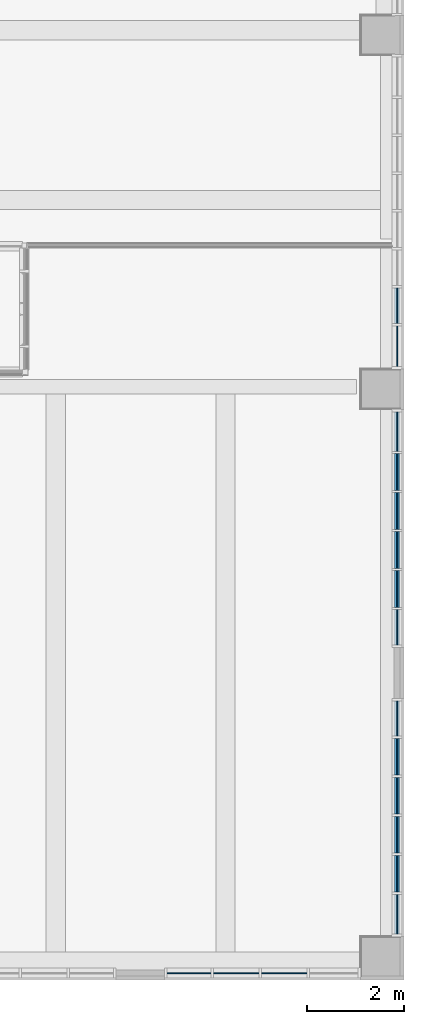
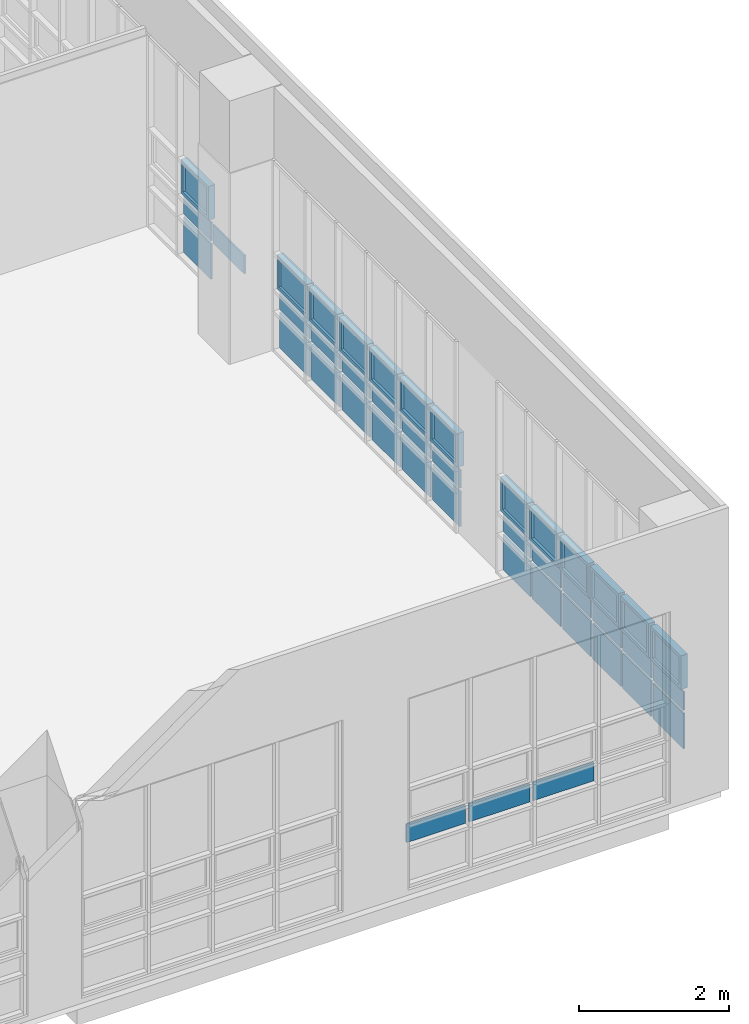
# One storey, part 43 of 74: 43 plates, 4 elements without a shape of their own.
"""IFC2X3 building model written with IfcOpenShell, lengths in millimetres."""

from ifc_helpers import new_model, entity, si_unit, converted_unit, derived_unit, direction, frame, origin, origin_2d_with_axis, place, context, subcontext, project, spatial, polyline, rectangle, outline, extrude, source, transform, mapped, material, material_list, type_object, type_shapes, element, aggregate, save


model = new_model("IFC2X3")

# Units and contexts
model_context = context("Model", 3, precision=0.01, world=origin(), true_north=direction((6.123031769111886e-17, 1.0)))
body_context = subcontext(model_context, "Body", "Model", "MODEL_VIEW")
ifc_project = project(units=[si_unit("LENGTHUNIT", "METRE", prefix="MILLI"), si_unit("AREAUNIT", "SQUARE_METRE"), si_unit("VOLUMEUNIT", "CUBIC_METRE"), converted_unit("PLANEANGLEUNIT", "DEGREE", entity("IfcRatioMeasure", 0.017453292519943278), si_unit("PLANEANGLEUNIT", "RADIAN"), dimensions=[0, 0, 0, 0, 0, 0, 0]), si_unit("MASSUNIT", "GRAM", prefix="KILO"), derived_unit("MASSDENSITYUNIT", [(si_unit("MASSUNIT", "GRAM", prefix="KILO"), 1), (si_unit("LENGTHUNIT", "METRE"), -3)]), derived_unit("MOMENTOFINERTIAUNIT", [(si_unit("LENGTHUNIT", "METRE"), 4)]), si_unit("TIMEUNIT", "SECOND"), si_unit("FREQUENCYUNIT", "HERTZ"), si_unit("THERMODYNAMICTEMPERATUREUNIT", "DEGREE_CELSIUS"), derived_unit("THERMALTRANSMITTANCEUNIT", [(si_unit("MASSUNIT", "GRAM", prefix="KILO"), 1), (si_unit("THERMODYNAMICTEMPERATUREUNIT", "KELVIN"), -1), (si_unit("TIMEUNIT", "SECOND"), -3)]), derived_unit("VOLUMETRICFLOWRATEUNIT", [(si_unit("LENGTHUNIT", "METRE"), 3), (si_unit("TIMEUNIT", "SECOND"), -1)]), derived_unit("MASSFLOWRATEUNIT", [(si_unit("MASSUNIT", "GRAM", prefix="KILO"), 1), (si_unit("TIMEUNIT", "SECOND"), -1)]), derived_unit("ROTATIONALFREQUENCYUNIT", [(si_unit("TIMEUNIT", "SECOND"), -1)]), si_unit("ELECTRICCURRENTUNIT", "AMPERE"), si_unit("ELECTRICVOLTAGEUNIT", "VOLT"), si_unit("POWERUNIT", "WATT"), si_unit("FORCEUNIT", "NEWTON", prefix="KILO"), si_unit("ILLUMINANCEUNIT", "LUX"), si_unit("LUMINOUSFLUXUNIT", "LUMEN"), si_unit("LUMINOUSINTENSITYUNIT", "CANDELA"), derived_unit("USERDEFINED", [(si_unit("MASSUNIT", "GRAM", prefix="KILO"), -1), (si_unit("LENGTHUNIT", "METRE"), -2), (si_unit("TIMEUNIT", "SECOND"), 3), (si_unit("LUMINOUSFLUXUNIT", "LUMEN"), 1)]), derived_unit("SOUNDPOWERUNIT", [(si_unit("MASSUNIT", "GRAM", prefix="KILO"), 1), (si_unit("LENGTHUNIT", "METRE"), 2), (si_unit("TIMEUNIT", "SECOND"), -3)]), derived_unit("SOUNDPRESSUREUNIT", [(si_unit("MASSUNIT", "GRAM", prefix="KILO"), 1), (si_unit("LENGTHUNIT", "METRE"), -1), (si_unit("TIMEUNIT", "SECOND"), -2)]), derived_unit("LINEARVELOCITYUNIT", [(si_unit("LENGTHUNIT", "METRE"), 1), (si_unit("TIMEUNIT", "SECOND"), -1)]), si_unit("PRESSUREUNIT", "PASCAL"), derived_unit("USERDEFINED", [(si_unit("LENGTHUNIT", "METRE"), -2), (si_unit("MASSUNIT", "GRAM", prefix="KILO"), 1), (si_unit("TIMEUNIT", "SECOND"), -2)]), derived_unit("LINEARFORCEUNIT", [(si_unit("MASSUNIT", "GRAM", prefix="KILO"), 1), (si_unit("LENGTHUNIT", "METRE"), 1), (si_unit("TIMEUNIT", "SECOND"), -2), (si_unit("LENGTHUNIT", "METRE"), -1)]), derived_unit("PLANARFORCEUNIT", [(si_unit("MASSUNIT", "GRAM", prefix="KILO"), 1), (si_unit("LENGTHUNIT", "METRE"), 1), (si_unit("TIMEUNIT", "SECOND"), -2), (si_unit("LENGTHUNIT", "METRE"), -2)])], contexts=[model_context])

# Site, building, storey
site_placement = place(None, frame((-14167.972527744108, -657.2125860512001, 0.0)))
site = spatial("IfcSite", under=ifc_project, at=site_placement, Name="Default", CompositionType="ELEMENT")
building_placement = place(site_placement, origin())
building = spatial("IfcBuilding", under=site, at=building_placement, Name="Sample Building", CompositionType="ELEMENT")
storey_placement = place(building_placement, frame((0.0, 0.0, 4800.0)))
storey = spatial("IfcBuildingStorey", under=building, at=storey_placement, Name="지상 2층", CompositionType="ELEMENT", Elevation=4800.000000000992)

# Curtain wall, plates
curtain_wall_type = type_object("IfcCurtainWallType", Name="커튼월:CW112-스테인리스 스틸 커튼월", PredefinedType="NOTDEFINED")
curtain_wall_1_placement = place(storey_placement, frame((0.0, 0.0, -4800.0)))
curtain_wall_1 = element("IfcCurtainWall", 1, at=curtain_wall_1_placement, inside=storey, type_object=curtain_wall_type, Name="커튼월:CW112-스테인리스 스틸 커튼월", ObjectType="커튼월:CW112-스테인리스 스틸 커튼월")
ifc_material_1 = material(Name="KBIMS-로이유리(코팅)")
plate_type_1 = type_object("IfcPlateType", Name="CW300-THK24.Low-e coating glass:CW300-THK24.Low-e coating glass", PredefinedType="CURTAIN_PANEL", material=ifc_material_1)
shared_shape_1 = source(origin(), body_context, "Body", "SweptSolid", [
    extrude(rectangle(XDim=731.2499999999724, YDim=24.000000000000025, at=origin_2d_with_axis()), frame((0.0, 0.0, 0.0), z_axis=(0.0, 0.0, 1.0), x_axis=(-1.0, 0.0, 0.0)), (0.0, 0.0, 1.0), 575.0000000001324),
])
type_shapes(plate_type_1, [shared_shape_1])
plate_1_placement = place(curtain_wall_1_placement, frame((51405.46382893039, 14379.087275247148, 4930.0), z_axis=(0.0, 0.0, 1.0), x_axis=(0.0, 1.0, 0.0)))
plate_1 = element("IfcPlate", 2, at=plate_1_placement, type_object=plate_type_1, material=ifc_material_1, Name="CW300-THK24.Low-e coating glass:CW300-THK24.Low-e coating glass", ObjectType="CW300-THK24.Low-e coating glass:CW300-THK24.Low-e coating glass", context=body_context, shape_type="MappedRepresentation", body=[
    mapped(shared_shape_1, transform((0.0, 0.0, 0.0), scale=1.0)),
])
plate_type_2 = type_object("IfcPlateType", Name="CW300-THK24.Low-e coating glass:CW300-THK24.Low-e coating glass", PredefinedType="CURTAIN_PANEL", material=ifc_material_1)
shared_shape_2 = source(origin(), body_context, "Body", "SweptSolid", [
    extrude(rectangle(XDim=731.2499999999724, YDim=24.000000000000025, at=origin_2d_with_axis()), frame((0.0, 0.0, 0.0), z_axis=(0.0, 0.0, 1.0), x_axis=(-1.0, 0.0, 0.0)), (0.0, 0.0, 1.0), 300.0),
])
type_shapes(plate_type_2, [shared_shape_2])
plate_2_placement = place(curtain_wall_1_placement, frame((51405.46382893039, 14379.087275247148, 5555.0), z_axis=(0.0, 0.0, 1.0), x_axis=(0.0, 1.0, 0.0)))
plate_2 = element("IfcPlate", 3, at=plate_2_placement, type_object=plate_type_2, material=ifc_material_1, Name="CW300-THK24.Low-e coating glass:CW300-THK24.Low-e coating glass", ObjectType="CW300-THK24.Low-e coating glass:CW300-THK24.Low-e coating glass", context=body_context, shape_type="MappedRepresentation", body=[
    mapped(shared_shape_2, transform((0.0, 0.0, 0.0), scale=1.0)),
])
ifc_material_2 = material(Name="KBIMS-유리")
ifc_material_3 = material(Name="KBIMS-알루미늄")
ifc_material_list_1 = material_list([ifc_material_2, ifc_material_3])
ifc_material_list_2 = material_list([ifc_material_2, ifc_material_3])
plate_type_3 = type_object("IfcPlateType", Name="CW410-프로젝트 창:CW410-프로젝트 창 (하부개폐)", PredefinedType="CURTAIN_PANEL", material=ifc_material_list_2)
shared_shape_3 = source(origin(), body_context, "Body", "SweptSolid", [
    extrude(rectangle(XDim=631.250000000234, YDim=23.999999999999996, at=origin_2d_with_axis()), frame((0.0, -0.04999999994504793, 50.0), z_axis=(0.0, 0.0, 1.0), x_axis=(-1.0, 0.0, 0.0)), (0.0, 0.0, 1.0), 450.0000000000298),
    extrude(outline(polyline([(-365.6249999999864, -275.0), (365.6249999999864, -275.0), (365.6249999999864, 275.0), (-365.6249999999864, 275.0), (-365.6249999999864, -275.0)]), holes=[polyline([(-315.62499999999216, -225.0), (-315.6249999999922, 225.0), (315.6250000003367, 225.0), (315.62500000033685, -225.0), (-315.62499999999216, -225.0)])]), frame((0.0, -50.04999999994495, 275.0), z_axis=(0.0, 1.0, 0.0), x_axis=(1.0, 0.0, 0.0)), (0.0, 0.0, 1.0), 99.99999999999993),
])
type_shapes(plate_type_3, [shared_shape_3])
plate_3_placement = place(curtain_wall_1_placement, frame((51405.46382893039, 14379.087275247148, 5905.0), z_axis=(0.0, 0.0, 1.0), x_axis=(0.0, 1.0, 0.0)))
plate_3 = element("IfcPlate", 4, at=plate_3_placement, type_object=plate_type_3, material=ifc_material_list_1, Name="CW410-프로젝트 창:CW410-프로젝트 창 (하부개폐)", ObjectType="CW410-프로젝트 창:CW410-프로젝트 창 (하부개폐)", context=body_context, shape_type="MappedRepresentation", body=[
    mapped(shared_shape_3, transform((0.0, 0.0, 0.0), scale=1.0)),
])

curtain_wall_2_placement = place(storey_placement, frame((0.0, 0.0, -4800.0)))
curtain_wall_2 = element("IfcCurtainWall", 5, at=curtain_wall_2_placement, inside=storey, type_object=curtain_wall_type, Name="커튼월:CW112-스테인리스 스틸 커튼월", ObjectType="커튼월:CW112-스테인리스 스틸 커튼월")
plate_type_4 = type_object("IfcPlateType", Name="CW300-THK24.Low-e coating glass:CW300-THK24.Low-e coating glass", PredefinedType="CURTAIN_PANEL", material=ifc_material_1)
shared_shape_4 = source(origin(), body_context, "Body", "SweptSolid", [
    extrude(rectangle(XDim=937.4999999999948, YDim=24.000000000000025, at=origin_2d_with_axis()), frame((0.0, 0.0, 0.0), z_axis=(0.0, 0.0, 1.0), x_axis=(-1.0, 0.0, 0.0)), (0.0, 0.0, 1.0), 299.99999999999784),
])
type_shapes(plate_type_4, [shared_shape_4])
plate_4_placement = place(curtain_wall_2_placement, frame((48092.07230636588, 619.7122951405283, 5555.0)))
plate_4 = element("IfcPlate", 6, at=plate_4_placement, type_object=plate_type_4, material=ifc_material_1, Name="CW300-THK24.Low-e coating glass:CW300-THK24.Low-e coating glass", ObjectType="CW300-THK24.Low-e coating glass:CW300-THK24.Low-e coating glass", context=body_context, shape_type="MappedRepresentation", body=[
    mapped(shared_shape_4, transform((0.0, 0.0, 0.0), scale=1.0)),
])
plate_5_placement = place(curtain_wall_2_placement, frame((49079.57230636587, 619.7122951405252, 5555.0)))
plate_5 = element("IfcPlate", 7, at=plate_5_placement, type_object=plate_type_4, material=ifc_material_1, Name="CW300-THK24.Low-e coating glass:CW300-THK24.Low-e coating glass", ObjectType="CW300-THK24.Low-e coating glass:CW300-THK24.Low-e coating glass", context=body_context, shape_type="MappedRepresentation", body=[
    mapped(shared_shape_4, transform((0.0, 0.0, 0.0), scale=1.0)),
])
plate_type_5 = type_object("IfcPlateType", Name="CW300-THK24.Low-e coating glass:CW300-THK24.Low-e coating glass", PredefinedType="CURTAIN_PANEL", material=ifc_material_1)
shared_shape_5 = source(origin(), body_context, "Body", "SweptSolid", [
    extrude(rectangle(XDim=912.5000000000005, YDim=24.000000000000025, at=origin_2d_with_axis()), frame((0.0, 0.0, 0.0), z_axis=(0.0, 0.0, 1.0), x_axis=(-1.0, 0.0, 0.0)), (0.0, 0.0, 1.0), 299.99999999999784),
])
type_shapes(plate_type_5, [shared_shape_5])
plate_6_placement = place(curtain_wall_2_placement, frame((47117.07230636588, 619.7122951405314, 5555.0)))
plate_6 = element("IfcPlate", 8, at=plate_6_placement, type_object=plate_type_5, material=ifc_material_1, Name="CW300-THK24.Low-e coating glass:CW300-THK24.Low-e coating glass", ObjectType="CW300-THK24.Low-e coating glass:CW300-THK24.Low-e coating glass", context=body_context, shape_type="MappedRepresentation", body=[
    mapped(shared_shape_5, transform((0.0, 0.0, 0.0), scale=1.0)),
])
aggregate(curtain_wall_2, [plate_6, plate_4, plate_5])

curtain_wall_3_placement = place(storey_placement, frame((0.0, 0.0, -4800.0)))
curtain_wall_3 = element("IfcCurtainWall", 9, at=curtain_wall_3_placement, inside=storey, type_object=curtain_wall_type, Name="커튼월:CW112-스테인리스 스틸 커튼월", ObjectType="커튼월:CW112-스테인리스 스틸 커튼월")
plate_type_6 = type_object("IfcPlateType", Name="CW300-THK24.Low-e coating glass:CW300-THK24.Low-e coating glass", PredefinedType="CURTAIN_PANEL", material=ifc_material_1)
shared_shape_6 = source(origin(), body_context, "Body", "SweptSolid", [
    extrude(rectangle(XDim=811.1669447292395, YDim=24.000000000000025, at=origin_2d_with_axis()), frame((0.0, 0.0, 0.0), z_axis=(0.0, 0.0, 1.0), x_axis=(-1.0, 0.0, 0.0)), (0.0, 0.0, 1.0), 575.0000000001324),
])
type_shapes(plate_type_6, [shared_shape_6])
plate_7_placement = place(curtain_wall_3_placement, frame((51405.46382893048, 1830.7957803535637, 4930.0), z_axis=(0.0, 0.0, 1.0), x_axis=(0.0, 1.0, 0.0)))
plate_7 = element("IfcPlate", 10, at=plate_7_placement, type_object=plate_type_6, material=ifc_material_1, Name="CW300-THK24.Low-e coating glass:CW300-THK24.Low-e coating glass", ObjectType="CW300-THK24.Low-e coating glass:CW300-THK24.Low-e coating glass", context=body_context, shape_type="MappedRepresentation", body=[
    mapped(shared_shape_6, transform((0.0, 0.0, 0.0), scale=1.0)),
])
plate_type_7 = type_object("IfcPlateType", Name="CW300-THK24.Low-e coating glass:CW300-THK24.Low-e coating glass", PredefinedType="CURTAIN_PANEL", material=ifc_material_1)
shared_shape_7 = source(origin(), body_context, "Body", "SweptSolid", [
    extrude(rectangle(XDim=754.1666666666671, YDim=24.000000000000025, at=origin_2d_with_axis()), frame((0.0, 0.0, 0.0), z_axis=(0.0, 0.0, 1.0), x_axis=(-1.0, 0.0, 0.0)), (0.0, 0.0, 1.0), 575.0000000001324),
])
type_shapes(plate_type_7, [shared_shape_7])
plate_8_placement = place(curtain_wall_3_placement, frame((51405.46382893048, 2663.462586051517, 4930.0), z_axis=(0.0, 0.0, 1.0), x_axis=(0.0, 1.0, 0.0)))
plate_8 = element("IfcPlate", 11, at=plate_8_placement, type_object=plate_type_7, material=ifc_material_1, Name="CW300-THK24.Low-e coating glass:CW300-THK24.Low-e coating glass", ObjectType="CW300-THK24.Low-e coating glass:CW300-THK24.Low-e coating glass", context=body_context, shape_type="MappedRepresentation", body=[
    mapped(shared_shape_7, transform((0.0, 0.0, 0.0), scale=1.0)),
])
plate_9_placement = place(curtain_wall_3_placement, frame((51405.46382893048, 3467.629252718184, 4930.0), z_axis=(0.0, 0.0, 1.0), x_axis=(0.0, 1.0, 0.0)))
plate_9 = element("IfcPlate", 12, at=plate_9_placement, type_object=plate_type_7, material=ifc_material_1, Name="CW300-THK24.Low-e coating glass:CW300-THK24.Low-e coating glass", ObjectType="CW300-THK24.Low-e coating glass:CW300-THK24.Low-e coating glass", context=body_context, shape_type="MappedRepresentation", body=[
    mapped(shared_shape_7, transform((0.0, 0.0, 0.0), scale=1.0)),
])
plate_10_placement = place(curtain_wall_3_placement, frame((51405.463828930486, 4271.795919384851, 4930.0), z_axis=(0.0, 0.0, 1.0), x_axis=(0.0, 1.0, 0.0)))
plate_10 = element("IfcPlate", 13, at=plate_10_placement, type_object=plate_type_7, material=ifc_material_1, Name="CW300-THK24.Low-e coating glass:CW300-THK24.Low-e coating glass", ObjectType="CW300-THK24.Low-e coating glass:CW300-THK24.Low-e coating glass", context=body_context, shape_type="MappedRepresentation", body=[
    mapped(shared_shape_7, transform((0.0, 0.0, 0.0), scale=1.0)),
])
plate_11_placement = place(curtain_wall_3_placement, frame((51405.463828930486, 5075.962586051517, 4930.0), z_axis=(0.0, 0.0, 1.0), x_axis=(0.0, 1.0, 0.0)))
plate_11 = element("IfcPlate", 14, at=plate_11_placement, type_object=plate_type_7, material=ifc_material_1, Name="CW300-THK24.Low-e coating glass:CW300-THK24.Low-e coating glass", ObjectType="CW300-THK24.Low-e coating glass:CW300-THK24.Low-e coating glass", context=body_context, shape_type="MappedRepresentation", body=[
    mapped(shared_shape_7, transform((0.0, 0.0, 0.0), scale=1.0)),
])

curtain_wall_4_placement = place(storey_placement, frame((0.0, 0.0, -4800.0)))
curtain_wall_4 = element("IfcCurtainWall", 15, at=curtain_wall_4_placement, inside=storey, type_object=curtain_wall_type, Name="커튼월:CW112-스테인리스 스틸 커튼월", ObjectType="커튼월:CW112-스테인리스 스틸 커튼월")
plate_12_placement = place(curtain_wall_4_placement, frame((51405.46382893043, 8538.462586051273, 4930.0), z_axis=(0.0, 0.0, 1.0), x_axis=(0.0, 1.0, 0.0)))
plate_12 = element("IfcPlate", 16, at=plate_12_placement, type_object=plate_type_7, material=ifc_material_1, Name="CW300-THK24.Low-e coating glass:CW300-THK24.Low-e coating glass", ObjectType="CW300-THK24.Low-e coating glass:CW300-THK24.Low-e coating glass", context=body_context, shape_type="MappedRepresentation", body=[
    mapped(shared_shape_7, transform((0.0, 0.0, 0.0), scale=1.0)),
])
plate_13_placement = place(curtain_wall_4_placement, frame((51405.46382893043, 9342.62925271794, 4930.0), z_axis=(0.0, 0.0, 1.0), x_axis=(0.0, 1.0, 0.0)))
plate_13 = element("IfcPlate", 17, at=plate_13_placement, type_object=plate_type_7, material=ifc_material_1, Name="CW300-THK24.Low-e coating glass:CW300-THK24.Low-e coating glass", ObjectType="CW300-THK24.Low-e coating glass:CW300-THK24.Low-e coating glass", context=body_context, shape_type="MappedRepresentation", body=[
    mapped(shared_shape_7, transform((0.0, 0.0, 0.0), scale=1.0)),
])
plate_14_placement = place(curtain_wall_4_placement, frame((51405.463828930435, 10146.795919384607, 4930.0), z_axis=(0.0, 0.0, 1.0), x_axis=(0.0, 1.0, 0.0)))
plate_14 = element("IfcPlate", 18, at=plate_14_placement, type_object=plate_type_7, material=ifc_material_1, Name="CW300-THK24.Low-e coating glass:CW300-THK24.Low-e coating glass", ObjectType="CW300-THK24.Low-e coating glass:CW300-THK24.Low-e coating glass", context=body_context, shape_type="MappedRepresentation", body=[
    mapped(shared_shape_7, transform((0.0, 0.0, 0.0), scale=1.0)),
])
plate_15_placement = place(curtain_wall_4_placement, frame((51405.463828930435, 10950.962586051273, 4930.0), z_axis=(0.0, 0.0, 1.0), x_axis=(0.0, 1.0, 0.0)))
plate_15 = element("IfcPlate", 19, at=plate_15_placement, type_object=plate_type_7, material=ifc_material_1, Name="CW300-THK24.Low-e coating glass:CW300-THK24.Low-e coating glass", ObjectType="CW300-THK24.Low-e coating glass:CW300-THK24.Low-e coating glass", context=body_context, shape_type="MappedRepresentation", body=[
    mapped(shared_shape_7, transform((0.0, 0.0, 0.0), scale=1.0)),
])

# Plate
plate_type_8 = type_object("IfcPlateType", Name="CW300-THK24.Low-e coating glass:CW300-THK24.Low-e coating glass", PredefinedType="CURTAIN_PANEL", material=ifc_material_1)
shared_shape_8 = source(origin(), body_context, "Body", "SweptSolid", [
    extrude(rectangle(XDim=729.1666666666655, YDim=24.000000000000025, at=origin_2d_with_axis()), frame((0.0, 0.0, 0.0), z_axis=(0.0, 0.0, 1.0), x_axis=(-1.0, 0.0, 0.0)), (0.0, 0.0, 1.0), 575.0000000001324),
])
type_shapes(plate_type_8, [shared_shape_8])
plate_16_placement = place(curtain_wall_3_placement, frame((51405.463828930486, 5867.629252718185, 4930.0), z_axis=(0.0, 0.0, 1.0), x_axis=(0.0, 1.0, 0.0)))
plate_16 = element("IfcPlate", 20, at=plate_16_placement, type_object=plate_type_8, material=ifc_material_1, Name="CW300-THK24.Low-e coating glass:CW300-THK24.Low-e coating glass", ObjectType="CW300-THK24.Low-e coating glass:CW300-THK24.Low-e coating glass", context=body_context, shape_type="MappedRepresentation", body=[
    mapped(shared_shape_8, transform((0.0, 0.0, 0.0), scale=1.0)),
])

plate_17_placement = place(curtain_wall_4_placement, frame((51405.46382893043, 7746.795919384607, 4930.0), z_axis=(0.0, 0.0, 1.0), x_axis=(0.0, 1.0, 0.0)))
plate_17 = element("IfcPlate", 21, at=plate_17_placement, type_object=plate_type_8, material=ifc_material_1, Name="CW300-THK24.Low-e coating glass:CW300-THK24.Low-e coating glass", ObjectType="CW300-THK24.Low-e coating glass:CW300-THK24.Low-e coating glass", context=body_context, shape_type="MappedRepresentation", body=[
    mapped(shared_shape_8, transform((0.0, 0.0, 0.0), scale=1.0)),
])

plate_type_9 = type_object("IfcPlateType", Name="CW300-THK24.Low-e coating glass:CW300-THK24.Low-e coating glass", PredefinedType="CURTAIN_PANEL", material=ifc_material_1)
shared_shape_9 = source(origin(), body_context, "Body", "SweptSolid", [
    extrude(rectangle(XDim=811.1669447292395, YDim=24.000000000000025, at=origin_2d_with_axis()), frame((0.0, 0.0, 0.0), z_axis=(0.0, 0.0, 1.0), x_axis=(-1.0, 0.0, 0.0)), (0.0, 0.0, 1.0), 299.9999999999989),
])
type_shapes(plate_type_9, [shared_shape_9])
plate_18_placement = place(curtain_wall_3_placement, frame((51405.46382893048, 1830.7957803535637, 5555.0), z_axis=(0.0, 0.0, 1.0), x_axis=(0.0, 1.0, 0.0)))
plate_18 = element("IfcPlate", 22, at=plate_18_placement, type_object=plate_type_9, material=ifc_material_1, Name="CW300-THK24.Low-e coating glass:CW300-THK24.Low-e coating glass", ObjectType="CW300-THK24.Low-e coating glass:CW300-THK24.Low-e coating glass", context=body_context, shape_type="MappedRepresentation", body=[
    mapped(shared_shape_9, transform((0.0, 0.0, 0.0), scale=1.0)),
])

plate_type_10 = type_object("IfcPlateType", Name="CW300-THK24.Low-e coating glass:CW300-THK24.Low-e coating glass", PredefinedType="CURTAIN_PANEL", material=ifc_material_1)
shared_shape_10 = source(origin(), body_context, "Body", "SweptSolid", [
    extrude(rectangle(XDim=754.1666666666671, YDim=24.000000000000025, at=origin_2d_with_axis()), frame((0.0, 0.0, 0.0), z_axis=(0.0, 0.0, 1.0), x_axis=(-1.0, 0.0, 0.0)), (0.0, 0.0, 1.0), 299.9999999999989),
])
type_shapes(plate_type_10, [shared_shape_10])
plate_19_placement = place(curtain_wall_3_placement, frame((51405.46382893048, 2663.462586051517, 5555.0), z_axis=(0.0, 0.0, 1.0), x_axis=(0.0, 1.0, 0.0)))
plate_19 = element("IfcPlate", 23, at=plate_19_placement, type_object=plate_type_10, material=ifc_material_1, Name="CW300-THK24.Low-e coating glass:CW300-THK24.Low-e coating glass", ObjectType="CW300-THK24.Low-e coating glass:CW300-THK24.Low-e coating glass", context=body_context, shape_type="MappedRepresentation", body=[
    mapped(shared_shape_10, transform((0.0, 0.0, 0.0), scale=1.0)),
])

plate_20_placement = place(curtain_wall_3_placement, frame((51405.46382893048, 3467.629252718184, 5555.0), z_axis=(0.0, 0.0, 1.0), x_axis=(0.0, 1.0, 0.0)))
plate_20 = element("IfcPlate", 24, at=plate_20_placement, type_object=plate_type_10, material=ifc_material_1, Name="CW300-THK24.Low-e coating glass:CW300-THK24.Low-e coating glass", ObjectType="CW300-THK24.Low-e coating glass:CW300-THK24.Low-e coating glass", context=body_context, shape_type="MappedRepresentation", body=[
    mapped(shared_shape_10, transform((0.0, 0.0, 0.0), scale=1.0)),
])

plate_21_placement = place(curtain_wall_3_placement, frame((51405.463828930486, 4271.795919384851, 5555.0), z_axis=(0.0, 0.0, 1.0), x_axis=(0.0, 1.0, 0.0)))
plate_21 = element("IfcPlate", 25, at=plate_21_placement, type_object=plate_type_10, material=ifc_material_1, Name="CW300-THK24.Low-e coating glass:CW300-THK24.Low-e coating glass", ObjectType="CW300-THK24.Low-e coating glass:CW300-THK24.Low-e coating glass", context=body_context, shape_type="MappedRepresentation", body=[
    mapped(shared_shape_10, transform((0.0, 0.0, 0.0), scale=1.0)),
])

plate_22_placement = place(curtain_wall_3_placement, frame((51405.463828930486, 5075.962586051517, 5555.0), z_axis=(0.0, 0.0, 1.0), x_axis=(0.0, 1.0, 0.0)))
plate_22 = element("IfcPlate", 26, at=plate_22_placement, type_object=plate_type_10, material=ifc_material_1, Name="CW300-THK24.Low-e coating glass:CW300-THK24.Low-e coating glass", ObjectType="CW300-THK24.Low-e coating glass:CW300-THK24.Low-e coating glass", context=body_context, shape_type="MappedRepresentation", body=[
    mapped(shared_shape_10, transform((0.0, 0.0, 0.0), scale=1.0)),
])

plate_23_placement = place(curtain_wall_4_placement, frame((51405.46382893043, 8538.462586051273, 5555.0), z_axis=(0.0, 0.0, 1.0), x_axis=(0.0, 1.0, 0.0)))
plate_23 = element("IfcPlate", 27, at=plate_23_placement, type_object=plate_type_10, material=ifc_material_1, Name="CW300-THK24.Low-e coating glass:CW300-THK24.Low-e coating glass", ObjectType="CW300-THK24.Low-e coating glass:CW300-THK24.Low-e coating glass", context=body_context, shape_type="MappedRepresentation", body=[
    mapped(shared_shape_10, transform((0.0, 0.0, 0.0), scale=1.0)),
])

plate_24_placement = place(curtain_wall_4_placement, frame((51405.46382893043, 9342.62925271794, 5555.0), z_axis=(0.0, 0.0, 1.0), x_axis=(0.0, 1.0, 0.0)))
plate_24 = element("IfcPlate", 28, at=plate_24_placement, type_object=plate_type_10, material=ifc_material_1, Name="CW300-THK24.Low-e coating glass:CW300-THK24.Low-e coating glass", ObjectType="CW300-THK24.Low-e coating glass:CW300-THK24.Low-e coating glass", context=body_context, shape_type="MappedRepresentation", body=[
    mapped(shared_shape_10, transform((0.0, 0.0, 0.0), scale=1.0)),
])

plate_25_placement = place(curtain_wall_4_placement, frame((51405.463828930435, 10146.795919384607, 5555.0), z_axis=(0.0, 0.0, 1.0), x_axis=(0.0, 1.0, 0.0)))
plate_25 = element("IfcPlate", 29, at=plate_25_placement, type_object=plate_type_10, material=ifc_material_1, Name="CW300-THK24.Low-e coating glass:CW300-THK24.Low-e coating glass", ObjectType="CW300-THK24.Low-e coating glass:CW300-THK24.Low-e coating glass", context=body_context, shape_type="MappedRepresentation", body=[
    mapped(shared_shape_10, transform((0.0, 0.0, 0.0), scale=1.0)),
])

plate_26_placement = place(curtain_wall_4_placement, frame((51405.463828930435, 10950.962586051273, 5555.0), z_axis=(0.0, 0.0, 1.0), x_axis=(0.0, 1.0, 0.0)))
plate_26 = element("IfcPlate", 30, at=plate_26_placement, type_object=plate_type_10, material=ifc_material_1, Name="CW300-THK24.Low-e coating glass:CW300-THK24.Low-e coating glass", ObjectType="CW300-THK24.Low-e coating glass:CW300-THK24.Low-e coating glass", context=body_context, shape_type="MappedRepresentation", body=[
    mapped(shared_shape_10, transform((0.0, 0.0, 0.0), scale=1.0)),
])

plate_type_11 = type_object("IfcPlateType", Name="CW300-THK24.Low-e coating glass:CW300-THK24.Low-e coating glass", PredefinedType="CURTAIN_PANEL", material=ifc_material_1)
shared_shape_11 = source(origin(), body_context, "Body", "SweptSolid", [
    extrude(rectangle(XDim=729.1666666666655, YDim=24.000000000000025, at=origin_2d_with_axis()), frame((0.0, 0.0, 0.0), z_axis=(0.0, 0.0, 1.0), x_axis=(-1.0, 0.0, 0.0)), (0.0, 0.0, 1.0), 299.9999999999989),
])
type_shapes(plate_type_11, [shared_shape_11])
plate_27_placement = place(curtain_wall_3_placement, frame((51405.463828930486, 5867.629252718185, 5555.0), z_axis=(0.0, 0.0, 1.0), x_axis=(0.0, 1.0, 0.0)))
plate_27 = element("IfcPlate", 31, at=plate_27_placement, type_object=plate_type_11, material=ifc_material_1, Name="CW300-THK24.Low-e coating glass:CW300-THK24.Low-e coating glass", ObjectType="CW300-THK24.Low-e coating glass:CW300-THK24.Low-e coating glass", context=body_context, shape_type="MappedRepresentation", body=[
    mapped(shared_shape_11, transform((0.0, 0.0, 0.0), scale=1.0)),
])

plate_28_placement = place(curtain_wall_4_placement, frame((51405.46382893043, 7746.795919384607, 5555.0), z_axis=(0.0, 0.0, 1.0), x_axis=(0.0, 1.0, 0.0)))
plate_28 = element("IfcPlate", 32, at=plate_28_placement, type_object=plate_type_11, material=ifc_material_1, Name="CW300-THK24.Low-e coating glass:CW300-THK24.Low-e coating glass", ObjectType="CW300-THK24.Low-e coating glass:CW300-THK24.Low-e coating glass", context=body_context, shape_type="MappedRepresentation", body=[
    mapped(shared_shape_11, transform((0.0, 0.0, 0.0), scale=1.0)),
])

ifc_material_list_3 = material_list([ifc_material_2, ifc_material_3])
ifc_material_list_4 = material_list([ifc_material_2, ifc_material_3])
plate_type_12 = type_object("IfcPlateType", Name="CW410-프로젝트 창:CW410-프로젝트 창 (하부개폐)", PredefinedType="CURTAIN_PANEL", material=ifc_material_list_4)
shared_shape_12 = source(origin(), body_context, "Body", "SweptSolid", [
    extrude(rectangle(XDim=23.999999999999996, YDim=711.1669447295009, at=origin_2d_with_axis()), frame((0.0, 0.04999999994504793, 50.0), z_axis=(0.0, 0.0, 1.0), x_axis=(0.0, 1.0, 0.0)), (0.0, 0.0, 1.0), 450.0000000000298),
    extrude(outline(polyline([(-405.58347236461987, -275.0), (405.58347236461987, -275.0), (405.58347236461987, 275.0), (-405.58347236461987, 275.0), (-405.58347236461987, -275.0)]), holes=[polyline([(-355.5834723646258, -225.0), (-355.58347236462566, 225.0), (355.5834723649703, 225.0), (355.5834723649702, -225.0), (-355.5834723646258, -225.0)])]), frame((0.0, -49.95000000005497, 275.0), z_axis=(0.0, 1.0, 0.0), x_axis=(1.0, 0.0, 0.0)), (0.0, 0.0, 1.0), 99.99999999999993),
])
type_shapes(plate_type_12, [shared_shape_12])
plate_29_placement = place(curtain_wall_3_placement, frame((51405.46382893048, 1830.7957803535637, 5905.0), z_axis=(0.0, 0.0, 1.0), x_axis=(0.0, 1.0, 0.0)))
plate_29 = element("IfcPlate", 33, at=plate_29_placement, type_object=plate_type_12, material=ifc_material_list_3, Name="CW410-프로젝트 창:CW410-프로젝트 창 (하부개폐)", ObjectType="CW410-프로젝트 창:CW410-프로젝트 창 (하부개폐)", context=body_context, shape_type="MappedRepresentation", body=[
    mapped(shared_shape_12, transform((0.0, 0.0, 0.0), scale=1.0)),
])

ifc_material_list_5 = material_list([ifc_material_2, ifc_material_3])
ifc_material_list_6 = material_list([ifc_material_2, ifc_material_3])
plate_type_13 = type_object("IfcPlateType", Name="CW410-프로젝트 창:CW410-프로젝트 창 (하부개폐)", PredefinedType="CURTAIN_PANEL", material=ifc_material_list_6)
shared_shape_13 = source(origin(), body_context, "Body", "SweptSolid", [
    extrude(rectangle(XDim=654.1666666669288, YDim=23.999999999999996, at=origin_2d_with_axis()), frame((0.0, -0.04999999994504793, 50.0), z_axis=(0.0, 0.0, 1.0), x_axis=(-1.0, 0.0, 0.0)), (0.0, 0.0, 1.0), 450.0000000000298),
    extrude(outline(polyline([(-377.0833333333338, -275.0), (377.0833333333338, -275.0), (377.0833333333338, 275.0), (-377.0833333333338, 275.0), (-377.0833333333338, -275.0)]), holes=[polyline([(-327.08333333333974, -225.0), (-327.0833333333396, 225.0), (327.08333333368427, 225.0), (327.08333333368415, -225.0), (-327.08333333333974, -225.0)])]), frame((0.0, -50.04999999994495, 275.0), z_axis=(0.0, 1.0, 0.0), x_axis=(1.0, 0.0, 0.0)), (0.0, 0.0, 1.0), 99.99999999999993),
])
type_shapes(plate_type_13, [shared_shape_13])
plate_30_placement = place(curtain_wall_3_placement, frame((51405.46382893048, 2663.462586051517, 5905.0), z_axis=(0.0, 0.0, 1.0), x_axis=(0.0, 1.0, 0.0)))
plate_30 = element("IfcPlate", 34, at=plate_30_placement, type_object=plate_type_13, material=ifc_material_list_5, Name="CW410-프로젝트 창:CW410-프로젝트 창 (하부개폐)", ObjectType="CW410-프로젝트 창:CW410-프로젝트 창 (하부개폐)", context=body_context, shape_type="MappedRepresentation", body=[
    mapped(shared_shape_13, transform((0.0, 0.0, 0.0), scale=1.0)),
])

ifc_material_list_7 = material_list([ifc_material_2, ifc_material_3])
plate_31_placement = place(curtain_wall_3_placement, frame((51405.46382893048, 3467.629252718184, 5905.0), z_axis=(0.0, 0.0, 1.0), x_axis=(0.0, 1.0, 0.0)))
plate_31 = element("IfcPlate", 35, at=plate_31_placement, type_object=plate_type_13, material=ifc_material_list_7, Name="CW410-프로젝트 창:CW410-프로젝트 창 (하부개폐)", ObjectType="CW410-프로젝트 창:CW410-프로젝트 창 (하부개폐)", context=body_context, shape_type="MappedRepresentation", body=[
    mapped(shared_shape_13, transform((0.0, 0.0, 0.0), scale=1.0)),
])

ifc_material_list_8 = material_list([ifc_material_2, ifc_material_3])
plate_32_placement = place(curtain_wall_3_placement, frame((51405.463828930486, 4271.795919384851, 5905.0), z_axis=(0.0, 0.0, 1.0), x_axis=(0.0, 1.0, 0.0)))
plate_32 = element("IfcPlate", 36, at=plate_32_placement, type_object=plate_type_13, material=ifc_material_list_8, Name="CW410-프로젝트 창:CW410-프로젝트 창 (하부개폐)", ObjectType="CW410-프로젝트 창:CW410-프로젝트 창 (하부개폐)", context=body_context, shape_type="MappedRepresentation", body=[
    mapped(shared_shape_13, transform((0.0, 0.0, 0.0), scale=1.0)),
])

ifc_material_list_9 = material_list([ifc_material_2, ifc_material_3])
plate_33_placement = place(curtain_wall_3_placement, frame((51405.463828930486, 5075.962586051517, 5905.0), z_axis=(0.0, 0.0, 1.0), x_axis=(0.0, 1.0, 0.0)))
plate_33 = element("IfcPlate", 37, at=plate_33_placement, type_object=plate_type_13, material=ifc_material_list_9, Name="CW410-프로젝트 창:CW410-프로젝트 창 (하부개폐)", ObjectType="CW410-프로젝트 창:CW410-프로젝트 창 (하부개폐)", context=body_context, shape_type="MappedRepresentation", body=[
    mapped(shared_shape_13, transform((0.0, 0.0, 0.0), scale=1.0)),
])

ifc_material_list_10 = material_list([ifc_material_2, ifc_material_3])
plate_34_placement = place(curtain_wall_4_placement, frame((51405.46382893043, 8538.462586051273, 5905.0), z_axis=(0.0, 0.0, 1.0), x_axis=(0.0, 1.0, 0.0)))
plate_34 = element("IfcPlate", 38, at=plate_34_placement, type_object=plate_type_13, material=ifc_material_list_10, Name="CW410-프로젝트 창:CW410-프로젝트 창 (하부개폐)", ObjectType="CW410-프로젝트 창:CW410-프로젝트 창 (하부개폐)", context=body_context, shape_type="MappedRepresentation", body=[
    mapped(shared_shape_13, transform((0.0, 0.0, 0.0), scale=1.0)),
])

ifc_material_list_11 = material_list([ifc_material_2, ifc_material_3])
plate_35_placement = place(curtain_wall_4_placement, frame((51405.46382893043, 9342.62925271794, 5905.0), z_axis=(0.0, 0.0, 1.0), x_axis=(0.0, 1.0, 0.0)))
plate_35 = element("IfcPlate", 39, at=plate_35_placement, type_object=plate_type_13, material=ifc_material_list_11, Name="CW410-프로젝트 창:CW410-프로젝트 창 (하부개폐)", ObjectType="CW410-프로젝트 창:CW410-프로젝트 창 (하부개폐)", context=body_context, shape_type="MappedRepresentation", body=[
    mapped(shared_shape_13, transform((0.0, 0.0, 0.0), scale=1.0)),
])

ifc_material_list_12 = material_list([ifc_material_2, ifc_material_3])
plate_36_placement = place(curtain_wall_4_placement, frame((51405.463828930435, 10146.795919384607, 5905.0), z_axis=(0.0, 0.0, 1.0), x_axis=(0.0, 1.0, 0.0)))
plate_36 = element("IfcPlate", 40, at=plate_36_placement, type_object=plate_type_13, material=ifc_material_list_12, Name="CW410-프로젝트 창:CW410-프로젝트 창 (하부개폐)", ObjectType="CW410-프로젝트 창:CW410-프로젝트 창 (하부개폐)", context=body_context, shape_type="MappedRepresentation", body=[
    mapped(shared_shape_13, transform((0.0, 0.0, 0.0), scale=1.0)),
])

ifc_material_list_13 = material_list([ifc_material_2, ifc_material_3])
plate_37_placement = place(curtain_wall_4_placement, frame((51405.463828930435, 10950.962586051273, 5905.0), z_axis=(0.0, 0.0, 1.0), x_axis=(0.0, 1.0, 0.0)))
plate_37 = element("IfcPlate", 41, at=plate_37_placement, type_object=plate_type_13, material=ifc_material_list_13, Name="CW410-프로젝트 창:CW410-프로젝트 창 (하부개폐)", ObjectType="CW410-프로젝트 창:CW410-프로젝트 창 (하부개폐)", context=body_context, shape_type="MappedRepresentation", body=[
    mapped(shared_shape_13, transform((0.0, 0.0, 0.0), scale=1.0)),
])

ifc_material_list_14 = material_list([ifc_material_2, ifc_material_3])
ifc_material_list_15 = material_list([ifc_material_2, ifc_material_3])
plate_type_14 = type_object("IfcPlateType", Name="CW410-프로젝트 창:CW410-프로젝트 창 (하부개폐)", PredefinedType="CURTAIN_PANEL", material=ifc_material_list_15)
shared_shape_14 = source(origin(), body_context, "Body", "SweptSolid", [
    extrude(rectangle(XDim=629.1666666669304, YDim=23.999999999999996, at=origin_2d_with_axis()), frame((0.0, -0.04999999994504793, 50.0), z_axis=(0.0, 0.0, 1.0), x_axis=(-1.0, 0.0, 0.0)), (0.0, 0.0, 1.0), 450.0000000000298),
    extrude(outline(polyline([(-364.58333333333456, -275.0), (364.58333333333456, -275.0), (364.58333333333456, 275.0), (-364.58333333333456, 275.0), (-364.58333333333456, -275.0)]), holes=[polyline([(-314.5833333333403, -225.0), (-314.5833333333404, 225.0), (314.5833333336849, 225.0), (314.583333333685, -225.0), (-314.5833333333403, -225.0)])]), frame((0.0, -50.04999999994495, 275.0), z_axis=(0.0, 1.0, 0.0), x_axis=(1.0, 0.0, 0.0)), (0.0, 0.0, 1.0), 99.99999999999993),
])
type_shapes(plate_type_14, [shared_shape_14])
plate_38_placement = place(curtain_wall_3_placement, frame((51405.463828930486, 5867.629252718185, 5905.0), z_axis=(0.0, 0.0, 1.0), x_axis=(0.0, 1.0, 0.0)))
plate_38 = element("IfcPlate", 42, at=plate_38_placement, type_object=plate_type_14, material=ifc_material_list_14, Name="CW410-프로젝트 창:CW410-프로젝트 창 (하부개폐)", ObjectType="CW410-프로젝트 창:CW410-프로젝트 창 (하부개폐)", context=body_context, shape_type="MappedRepresentation", body=[
    mapped(shared_shape_14, transform((0.0, 0.0, 0.0), scale=1.0)),
])

aggregate(curtain_wall_3, [plate_7, plate_8, plate_9, plate_10, plate_11, plate_16, plate_18, plate_19, plate_20, plate_21, plate_22, plate_27, plate_29, plate_30, plate_31, plate_32, plate_33, plate_38])

ifc_material_list_16 = material_list([ifc_material_2, ifc_material_3])
plate_39_placement = place(curtain_wall_4_placement, frame((51405.46382893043, 7746.795919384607, 5905.0), z_axis=(0.0, 0.0, 1.0), x_axis=(0.0, 1.0, 0.0)))
plate_39 = element("IfcPlate", 43, at=plate_39_placement, type_object=plate_type_14, material=ifc_material_list_16, Name="CW410-프로젝트 창:CW410-프로젝트 창 (하부개폐)", ObjectType="CW410-프로젝트 창:CW410-프로젝트 창 (하부개폐)", context=body_context, shape_type="MappedRepresentation", body=[
    mapped(shared_shape_14, transform((0.0, 0.0, 0.0), scale=1.0)),
])

plate_type_15 = type_object("IfcPlateType", Name="CW300-THK24.Low-e coating glass:CW300-THK24.Low-e coating glass", PredefinedType="CURTAIN_PANEL", material=ifc_material_1)
shared_shape_15 = source(origin(), body_context, "Body", "SweptSolid", [
    extrude(rectangle(XDim=811.1668105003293, YDim=24.000000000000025, at=origin_2d_with_axis()), frame((0.0, 0.0, 0.0), z_axis=(0.0, 0.0, 1.0), x_axis=(-1.0, 0.0, 0.0)), (0.0, 0.0, 1.0), 575.0000000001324),
])
type_shapes(plate_type_15, [shared_shape_15])
plate_40_placement = place(curtain_wall_4_placement, frame((51405.463828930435, 11783.629324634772, 4930.0), z_axis=(0.0, 0.0, 1.0), x_axis=(0.0, 1.0, 0.0)))
plate_40 = element("IfcPlate", 44, at=plate_40_placement, type_object=plate_type_15, material=ifc_material_1, Name="CW300-THK24.Low-e coating glass:CW300-THK24.Low-e coating glass", ObjectType="CW300-THK24.Low-e coating glass:CW300-THK24.Low-e coating glass", context=body_context, shape_type="MappedRepresentation", body=[
    mapped(shared_shape_15, transform((0.0, 0.0, 0.0), scale=1.0)),
])

plate_type_16 = type_object("IfcPlateType", Name="CW300-THK24.Low-e coating glass:CW300-THK24.Low-e coating glass", PredefinedType="CURTAIN_PANEL", material=ifc_material_1)
shared_shape_16 = source(origin(), body_context, "Body", "SweptSolid", [
    extrude(rectangle(XDim=811.1668105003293, YDim=24.000000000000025, at=origin_2d_with_axis()), frame((0.0, 0.0, 0.0), z_axis=(0.0, 0.0, 1.0), x_axis=(-1.0, 0.0, 0.0)), (0.0, 0.0, 1.0), 300.0),
])
type_shapes(plate_type_16, [shared_shape_16])
plate_41_placement = place(curtain_wall_4_placement, frame((51405.463828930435, 11783.629324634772, 5555.0), z_axis=(0.0, 0.0, 1.0), x_axis=(0.0, 1.0, 0.0)))
plate_41 = element("IfcPlate", 45, at=plate_41_placement, type_object=plate_type_16, material=ifc_material_1, Name="CW300-THK24.Low-e coating glass:CW300-THK24.Low-e coating glass", ObjectType="CW300-THK24.Low-e coating glass:CW300-THK24.Low-e coating glass", context=body_context, shape_type="MappedRepresentation", body=[
    mapped(shared_shape_16, transform((0.0, 0.0, 0.0), scale=1.0)),
])

ifc_material_list_17 = material_list([ifc_material_2, ifc_material_3])
ifc_material_list_18 = material_list([ifc_material_2, ifc_material_3])
plate_type_17 = type_object("IfcPlateType", Name="CW410-프로젝트 창:CW410-프로젝트 창 (하부개폐)", PredefinedType="CURTAIN_PANEL", material=ifc_material_list_18)
shared_shape_17 = source(origin(), body_context, "Body", "SweptSolid", [
    extrude(rectangle(XDim=711.1668105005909, YDim=23.999999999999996, at=origin_2d_with_axis()), frame((0.0, -0.04999999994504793, 50.0), z_axis=(0.0, 0.0, 1.0), x_axis=(-1.0, 0.0, 0.0)), (0.0, 0.0, 1.0), 450.0000000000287),
    extrude(outline(polyline([(-405.58340525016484, -275.0), (405.58340525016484, -275.0), (405.58340525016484, 275.0), (-405.58340525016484, 275.0), (-405.58340525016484, -275.0)]), holes=[polyline([(-355.58340525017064, -225.0), (-355.5834052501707, 225.0), (355.58340525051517, 225.0), (355.5834052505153, -225.0), (-355.58340525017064, -225.0)])]), frame((0.0, -50.04999999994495, 275.0), z_axis=(0.0, 1.0, 0.0), x_axis=(1.0, 0.0, 0.0)), (0.0, 0.0, 1.0), 99.99999999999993),
])
type_shapes(plate_type_17, [shared_shape_17])
plate_42_placement = place(curtain_wall_4_placement, frame((51405.463828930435, 11783.629324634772, 5905.0), z_axis=(0.0, 0.0, 1.0), x_axis=(0.0, 1.0, 0.0)))
plate_42 = element("IfcPlate", 46, at=plate_42_placement, type_object=plate_type_17, material=ifc_material_list_17, Name="CW410-프로젝트 창:CW410-프로젝트 창 (하부개폐)", ObjectType="CW410-프로젝트 창:CW410-프로젝트 창 (하부개폐)", context=body_context, shape_type="MappedRepresentation", body=[
    mapped(shared_shape_17, transform((0.0, 0.0, 0.0), scale=1.0)),
])

aggregate(curtain_wall_4, [plate_17, plate_12, plate_13, plate_14, plate_15, plate_40, plate_28, plate_23, plate_24, plate_25, plate_26, plate_41, plate_39, plate_34, plate_35, plate_36, plate_37, plate_42])

plate_type_18 = type_object("IfcPlateType", Name="CW300-THK24.Low-e coating glass:CW300-THK24.Low-e coating glass", PredefinedType="CURTAIN_PANEL", material=ifc_material_1)
shared_shape_18 = source(origin(), body_context, "Body", "SweptSolid", [
    extrude(rectangle(XDim=838.2495453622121, YDim=24.000000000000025, at=origin_2d_with_axis()), frame((0.0, 0.0, 0.0), z_axis=(0.0, 0.0, 1.0), x_axis=(-1.0, 0.0, 0.0)), (0.0, 0.0, 1.0), 299.9999999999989),
])
type_shapes(plate_type_18, [shared_shape_18])
plate_43_placement = place(curtain_wall_1_placement, frame((51405.46382893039, 13544.33750256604, 5555.0), z_axis=(0.0, 0.0, 1.0), x_axis=(0.0, 1.0, 0.0)))
plate_43 = element("IfcPlate", 47, at=plate_43_placement, type_object=plate_type_18, material=ifc_material_1, Name="CW300-THK24.Low-e coating glass:CW300-THK24.Low-e coating glass", ObjectType="CW300-THK24.Low-e coating glass:CW300-THK24.Low-e coating glass", context=body_context, shape_type="MappedRepresentation", body=[
    mapped(shared_shape_18, transform((0.0, 0.0, 0.0), scale=1.0)),
])

aggregate(curtain_wall_1, [plate_1, plate_43, plate_2, plate_3])

save(model, "model.ifc")
